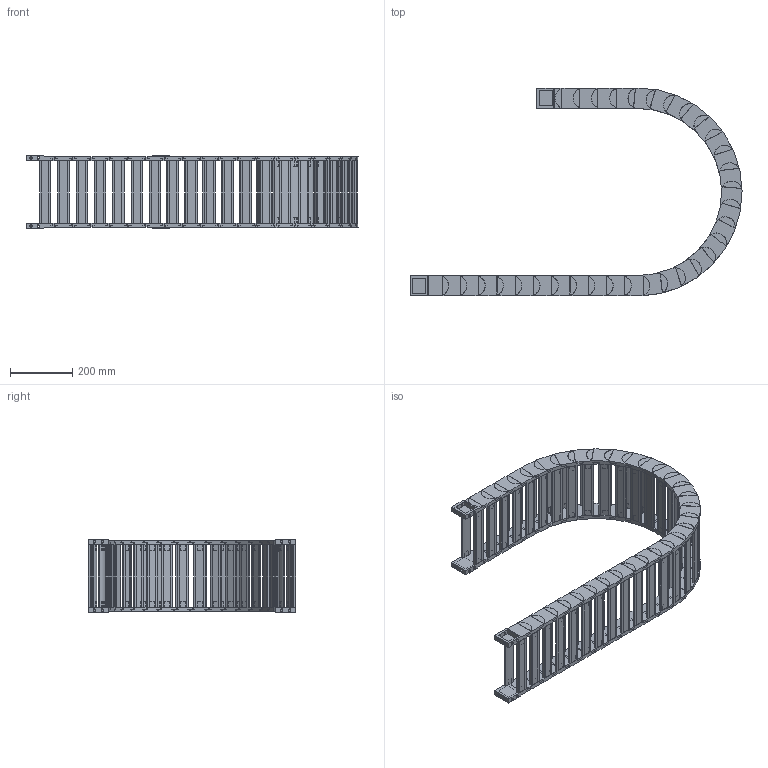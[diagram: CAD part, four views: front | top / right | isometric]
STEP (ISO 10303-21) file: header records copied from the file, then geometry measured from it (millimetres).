
FILE_DESCRIPTION((''),'2;1');
FILE_NAME('HD45-R300-ZPT_ASM','2022-06-20T20:38:18',('admin'),(''),'CREO PARAMETRIC BY PTC INC, 2021164','CREO PARAMETRIC BY PTC INC, 2021164','');
FILE_SCHEMA(('CONFIG_CONTROL_DESIGN','GEOMETRIC_VALIDATION_PROPERTIES_MIM'));
Length unit declared in the file: millimetre
Products named in the file (6): HD45-585; 45-500001; HD45_ASM; H45-T1-G; H45-T2-G; HD45-R300-ZPT_ASM
Assembly tree (37 placements, depth 3):
  HD45-R300-ZPT_ASM
    HD45_ASM  x31
      HD45-585
      45-500001
    H45-T1-G
    H45-T2-G
    45-500001  x2
Bounding box: 1062.69 x 664.97 x 233.5 mm (x, y, z)
Volume: 7555747.3 mm3; surface area: 2462599.4 mm2
Topology: 132 solids, 132 shells, 2550 faces, 6830 edges, 4680 vertices
Faces by surface type: plane 1676, cylinder 874
Entity records: 8762 total; most frequent: CARTESIAN_POINT 1414, DIRECTION 1404, ORIENTED_EDGE 1276, EDGE_CURVE 638, AXIS2_PLACEMENT_3D 491, VERTEX_POINT 432, VECTOR 422, LINE 422
